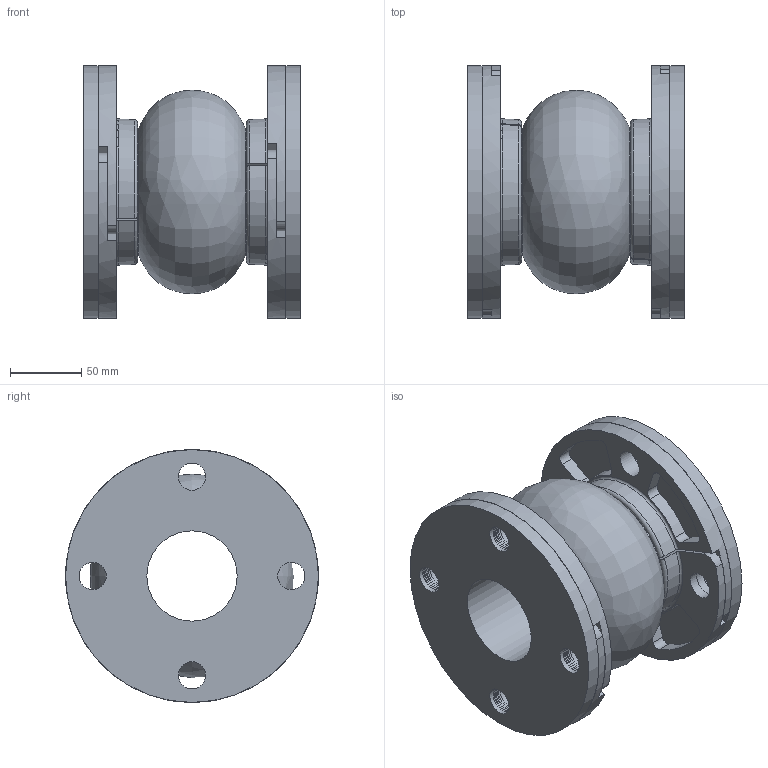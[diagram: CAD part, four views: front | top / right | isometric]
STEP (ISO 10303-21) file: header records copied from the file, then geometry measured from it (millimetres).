
FILE_DESCRIPTION((''),'2;1');
FILE_NAME('N:\StockJoints-ADSK, IGES, STEP, PNG\STEP\451 2.5x6.stp','2013-05-22T17:09:01',('mquog'),(''),'Autodesk Inventor 2011','Autodesk Inventor 2011','');
FILE_SCHEMA(('AUTOMOTIVE_DESIGN { 1 0 10303 214 1 1 1 1 }'));
Length unit declared in the file: inch
Products named in the file (3): 451 2.5x6; Style451 2.5x6; 2.5DI450BUR150
Assembly tree (5 placements, depth 2):
  451 2.5x6
    Style451 2.5x6
    2.5DI450BUR150  x4
Bounding box: 152.4 x 177.8 x 177.8 mm (x, y, z)
Volume: 1550457.2 mm3; surface area: 1522129.8 mm2
Topology: 15 solids, 15 shells, 336 faces, 803 edges, 516 vertices
Faces by surface type: cylinder 184, plane 93, torus 44, bspline 11, cone 4
Full cylindrical faces by diameter (mm): 19.05 x68, 63.5 x2, 69.85 x6, 76.2 x8, 78.232 x4, 80.264 x4, 82.296 x4, 84.328 x4, 87.503 x2, 95.25 x2, 174.625 x14, 177.8 x2
Entity records: 6765 total; most frequent: CARTESIAN_POINT 1792, DIRECTION 1063, ORIENTED_EDGE 678, EDGE_LOOP 529, AXIS2_PLACEMENT_3D 508, EDGE_CURVE 339, VERTEX_POINT 308, FACE_BOUND 307
